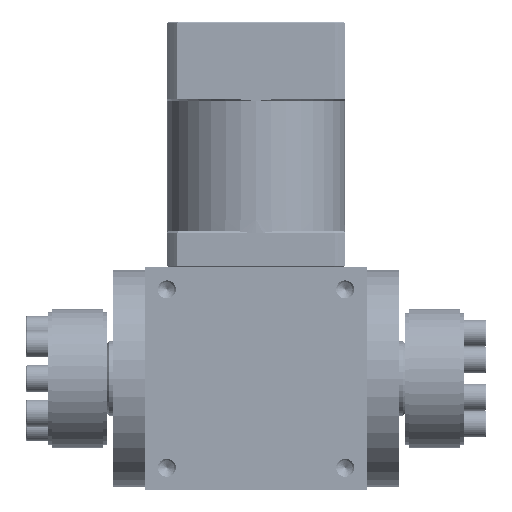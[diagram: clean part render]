
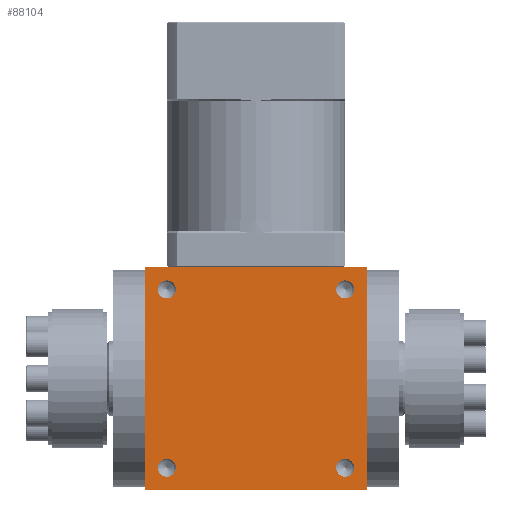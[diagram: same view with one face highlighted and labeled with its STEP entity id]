
A CAD part, front view. The second image highlights one B-rep face of the part: STEP entity #88104.
In plain terms, the highlighted planar face has unit normal (0, -1, 0).
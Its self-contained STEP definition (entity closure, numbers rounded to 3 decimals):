
#1453 = VERTEX_POINT ( 'NONE', #127322 ) ;
#1604 = AXIS2_PLACEMENT_3D ( 'NONE', #117001, #95962, #112866 ) ;
#1834 = AXIS2_PLACEMENT_3D ( 'NONE', #143045, #10377, #53209 ) ;
#2958 = CARTESIAN_POINT ( 'NONE',  ( 5.91, -28.409, 185. ) ) ;
#3461 = VECTOR ( 'NONE', #91156, 1000. ) ;
#4867 = EDGE_LOOP ( 'NONE', ( #104953, #25322 ) ) ;
#8037 = ORIENTED_EDGE ( 'NONE', *, *, #109727, .F. ) ;
#9209 = ORIENTED_EDGE ( 'NONE', *, *, #14918, .F. ) ;
#10377 = DIRECTION ( 'NONE',  ( 0., -1., 0. ) ) ;
#10580 = ORIENTED_EDGE ( 'NONE', *, *, #19346, .F. ) ;
#11427 = AXIS2_PLACEMENT_3D ( 'NONE', #65215, #109394, #131882 ) ;
#12904 = AXIS2_PLACEMENT_3D ( 'NONE', #91449, #135665, #124791 ) ;
#13389 = CARTESIAN_POINT ( 'NONE',  ( 2.885, -28.409, 185. ) ) ;
#13742 = CARTESIAN_POINT ( 'NONE',  ( -54.09, -28.409, 185. ) ) ;
#13811 = CARTESIAN_POINT ( 'NONE',  ( 2.885, -28.409, 125. ) ) ;
#14918 = EDGE_CURVE ( 'NONE', #23693, #1453, #67987, .T. ) ;
#15416 = VERTEX_POINT ( 'NONE', #2958 ) ;
#19346 = EDGE_CURVE ( 'NONE', #15416, #108613, #110351, .T. ) ;
#19704 = FACE_BOUND ( 'NONE', #40709, .T. ) ;
#20735 = CIRCLE ( 'NONE', #87888, 3.025 ) ;
#22240 = ORIENTED_EDGE ( 'NONE', *, *, #85580, .F. ) ;
#22635 = VERTEX_POINT ( 'NONE', #93427 ) ;
#23389 = EDGE_CURVE ( 'NONE', #22635, #89378, #129012, .T. ) ;
#23693 = VERTEX_POINT ( 'NONE', #111103 ) ;
#25322 = ORIENTED_EDGE ( 'NONE', *, *, #29763, .F. ) ;
#28692 = ORIENTED_EDGE ( 'NONE', *, *, #107082, .F. ) ;
#29763 = EDGE_CURVE ( 'NONE', #86786, #78192, #20735, .T. ) ;
#32232 = DIRECTION ( 'NONE',  ( 0., -1., 0. ) ) ;
#40338 = EDGE_CURVE ( 'NONE', #1453, #89920, #84718, .T. ) ;
#40709 = EDGE_LOOP ( 'NONE', ( #22240, #10580 ) ) ;
#42181 = PLANE ( 'NONE',  #139792 ) ;
#44720 = AXIS2_PLACEMENT_3D ( 'NONE', #13389, #67803, #124301 ) ;
#48860 = ORIENTED_EDGE ( 'NONE', *, *, #40338, .F. ) ;
#49416 = ORIENTED_EDGE ( 'NONE', *, *, #101656, .F. ) ;
#51634 = CARTESIAN_POINT ( 'NONE',  ( -27.115, -28.409, 155. ) ) ;
#52102 = DIRECTION ( 'NONE',  ( 1., 0., 0. ) ) ;
#52897 = CARTESIAN_POINT ( 'NONE',  ( -0.14, -28.409, 125. ) ) ;
#53209 = DIRECTION ( 'NONE',  ( -1., 0., 0. ) ) ;
#53487 = CARTESIAN_POINT ( 'NONE',  ( -57.115, -28.409, 185. ) ) ;
#57402 = LINE ( 'NONE', #90734, #101408 ) ;
#59716 = EDGE_CURVE ( 'NONE', #82953, #110268, #91673, .T. ) ;
#61345 = ORIENTED_EDGE ( 'NONE', *, *, #59716, .F. ) ;
#65215 = CARTESIAN_POINT ( 'NONE',  ( 2.885, -28.409, 125. ) ) ;
#67803 = DIRECTION ( 'NONE',  ( 0., -1., 0. ) ) ;
#67987 = LINE ( 'NONE', #101287, #3461 ) ;
#69267 = AXIS2_PLACEMENT_3D ( 'NONE', #53487, #121572, #86812 ) ;
#74104 = FACE_BOUND ( 'NONE', #90475, .T. ) ;
#74807 = DIRECTION ( 'NONE',  ( 0., 1., 0. ) ) ;
#76706 = CARTESIAN_POINT ( 'NONE',  ( -64.615, -28.409, 192.5 ) ) ;
#78192 = VERTEX_POINT ( 'NONE', #52897 ) ;
#78472 = EDGE_CURVE ( 'NONE', #89920, #81037, #84422, .T. ) ;
#81037 = VERTEX_POINT ( 'NONE', #134000 ) ;
#81999 = CARTESIAN_POINT ( 'NONE',  ( -0.14, -28.409, 185. ) ) ;
#82953 = VERTEX_POINT ( 'NONE', #108100 ) ;
#84422 = LINE ( 'NONE', #117035, #129799 ) ;
#84718 = LINE ( 'NONE', #76706, #136576 ) ;
#84959 = FACE_OUTER_BOUND ( 'NONE', #104451, .T. ) ;
#85119 = DIRECTION ( 'NONE',  ( 0., 0., -1. ) ) ;
#85530 = CIRCLE ( 'NONE', #11427, 3.025 ) ;
#85580 = EDGE_CURVE ( 'NONE', #108613, #15416, #141976, .T. ) ;
#86786 = VERTEX_POINT ( 'NONE', #120738 ) ;
#86812 = DIRECTION ( 'NONE',  ( -1., 0., 0. ) ) ;
#87735 = ORIENTED_EDGE ( 'NONE', *, *, #78472, .F. ) ;
#87888 = AXIS2_PLACEMENT_3D ( 'NONE', #13811, #114553, #124005 ) ;
#88104 = ADVANCED_FACE ( 'NONE', ( #129895, #74104, #97960, #19704, #84959 ), #42181, .F. ) ;
#89378 = VERTEX_POINT ( 'NONE', #13742 ) ;
#89920 = VERTEX_POINT ( 'NONE', #101255 ) ;
#90475 = EDGE_LOOP ( 'NONE', ( #106296, #8037 ) ) ;
#90734 = CARTESIAN_POINT ( 'NONE',  ( -64.615, -28.409, 117.5 ) ) ;
#91156 = DIRECTION ( 'NONE',  ( 0., 0., 1. ) ) ;
#91449 = CARTESIAN_POINT ( 'NONE',  ( -57.115, -28.409, 125. ) ) ;
#91673 = CIRCLE ( 'NONE', #12904, 3.025 ) ;
#93427 = CARTESIAN_POINT ( 'NONE',  ( -60.14, -28.409, 185. ) ) ;
#95962 = DIRECTION ( 'NONE',  ( 0., -1., 0. ) ) ;
#96109 = CARTESIAN_POINT ( 'NONE',  ( -54.09, -28.409, 125. ) ) ;
#97960 = FACE_BOUND ( 'NONE', #111857, .T. ) ;
#98200 = DIRECTION ( 'NONE',  ( -1., 0., 0. ) ) ;
#101255 = CARTESIAN_POINT ( 'NONE',  ( 10.385, -28.409, 192.5 ) ) ;
#101287 = CARTESIAN_POINT ( 'NONE',  ( -64.615, -28.409, 117.5 ) ) ;
#101408 = VECTOR ( 'NONE', #113886, 1000. ) ;
#101656 = EDGE_CURVE ( 'NONE', #81037, #23693, #57402, .T. ) ;
#104451 = EDGE_LOOP ( 'NONE', ( #9209, #49416, #87735, #48860 ) ) ;
#104953 = ORIENTED_EDGE ( 'NONE', *, *, #128844, .F. ) ;
#106296 = ORIENTED_EDGE ( 'NONE', *, *, #23389, .F. ) ;
#107082 = EDGE_CURVE ( 'NONE', #110268, #82953, #126865, .T. ) ;
#108100 = CARTESIAN_POINT ( 'NONE',  ( -60.14, -28.409, 125. ) ) ;
#108613 = VERTEX_POINT ( 'NONE', #81999 ) ;
#109062 = CARTESIAN_POINT ( 'NONE',  ( 2.885, -28.409, 185. ) ) ;
#109394 = DIRECTION ( 'NONE',  ( 0., -1., 0. ) ) ;
#109727 = EDGE_CURVE ( 'NONE', #89378, #22635, #141030, .T. ) ;
#110268 = VERTEX_POINT ( 'NONE', #96109 ) ;
#110351 = CIRCLE ( 'NONE', #124239, 3.025 ) ;
#111103 = CARTESIAN_POINT ( 'NONE',  ( -64.615, -28.409, 117.5 ) ) ;
#111857 = EDGE_LOOP ( 'NONE', ( #61345, #28692 ) ) ;
#112866 = DIRECTION ( 'NONE',  ( -1., 0., 0. ) ) ;
#113886 = DIRECTION ( 'NONE',  ( -1., 0., 0. ) ) ;
#114553 = DIRECTION ( 'NONE',  ( 0., -1., 0. ) ) ;
#117001 = CARTESIAN_POINT ( 'NONE',  ( -57.115, -28.409, 185. ) ) ;
#117035 = CARTESIAN_POINT ( 'NONE',  ( 10.385, -28.409, 117.5 ) ) ;
#118281 = DIRECTION ( 'NONE',  ( 1., 0., 0. ) ) ;
#120738 = CARTESIAN_POINT ( 'NONE',  ( 5.91, -28.409, 125. ) ) ;
#121572 = DIRECTION ( 'NONE',  ( 0., -1., 0. ) ) ;
#124005 = DIRECTION ( 'NONE',  ( -1., 0., 0. ) ) ;
#124239 = AXIS2_PLACEMENT_3D ( 'NONE', #109062, #32232, #98200 ) ;
#124301 = DIRECTION ( 'NONE',  ( -1., 0., 0. ) ) ;
#124791 = DIRECTION ( 'NONE',  ( -1., 0., 0. ) ) ;
#126865 = CIRCLE ( 'NONE', #1834, 3.025 ) ;
#127322 = CARTESIAN_POINT ( 'NONE',  ( -64.615, -28.409, 192.5 ) ) ;
#128844 = EDGE_CURVE ( 'NONE', #78192, #86786, #85530, .T. ) ;
#129012 = CIRCLE ( 'NONE', #1604, 3.025 ) ;
#129799 = VECTOR ( 'NONE', #85119, 1000. ) ;
#129895 = FACE_BOUND ( 'NONE', #4867, .T. ) ;
#131882 = DIRECTION ( 'NONE',  ( -1., 0., 0. ) ) ;
#134000 = CARTESIAN_POINT ( 'NONE',  ( 10.385, -28.409, 117.5 ) ) ;
#135665 = DIRECTION ( 'NONE',  ( 0., -1., 0. ) ) ;
#136576 = VECTOR ( 'NONE', #52102, 1000. ) ;
#139792 = AXIS2_PLACEMENT_3D ( 'NONE', #51634, #74807, #118281 ) ;
#141030 = CIRCLE ( 'NONE', #69267, 3.025 ) ;
#141976 = CIRCLE ( 'NONE', #44720, 3.025 ) ;
#143045 = CARTESIAN_POINT ( 'NONE',  ( -57.115, -28.409, 125. ) ) ;
